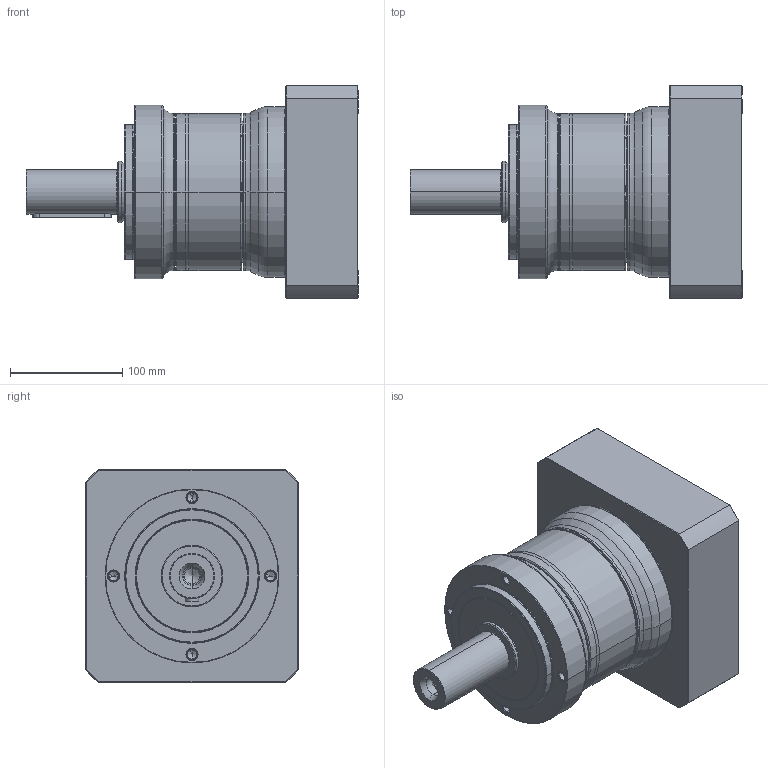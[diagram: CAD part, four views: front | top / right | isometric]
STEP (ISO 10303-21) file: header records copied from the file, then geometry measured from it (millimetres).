
FILE_DESCRIPTION((''),'2;1');
FILE_NAME('PE2-155_1ST_42-P0411A00101_ASM','2016-04-26T',('d00435'),(''),'PRO/ENGINEER BY PARAMETRIC TECHNOLOGY CORPORATION, 2008410','PRO/ENGINEER BY PARAMETRIC TECHNOLOGY CORPORATION, 2008410','');
FILE_SCHEMA(('CONFIG_CONTROL_DESIGN'));
Length unit declared in the file: millimetre
Products named in the file (9): P1323510001; P0250500001; P1324500601; P0350501001; P0941506001; P0503A00012; P0411A00101; P1702700001; PE2-155_1ST_42-P0411A00101_ASM
Assembly tree (8 placements, depth 2):
  PE2-155_1ST_42-P0411A00101_ASM
    P1323510001
    P0250500001
    P1324500601
    P0350501001
    P0941506001
    P0503A00012
    P0411A00101
    P1702700001
Bounding box: 296 x 190 x 190 mm (x, y, z)
Volume: 3687892.2 mm3; surface area: 450426 mm2
Topology: 8 solids, 22 shells, 524 faces, 1171 edges, 692 vertices
Faces by surface type: cylinder 166, cone 144, torus 102, plane 96, bspline 16
Entity records: 19340 total; most frequent: CARTESIAN_POINT 7360, DIRECTION 2761, ORIENTED_EDGE 2214, AXIS2_PLACEMENT_3D 1194, EDGE_CURVE 1135, VERTEX_POINT 692, CIRCLE 659, EDGE_LOOP 605
